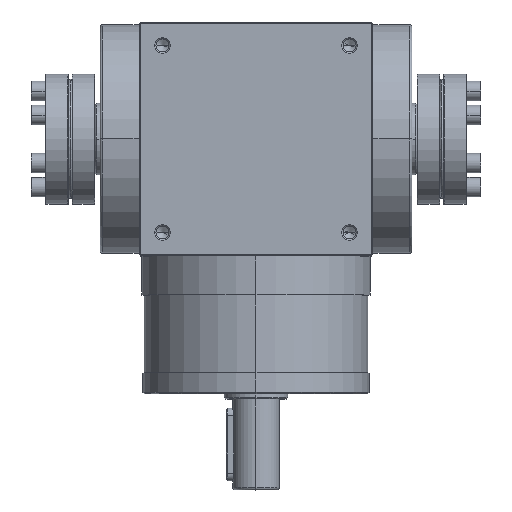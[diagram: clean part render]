
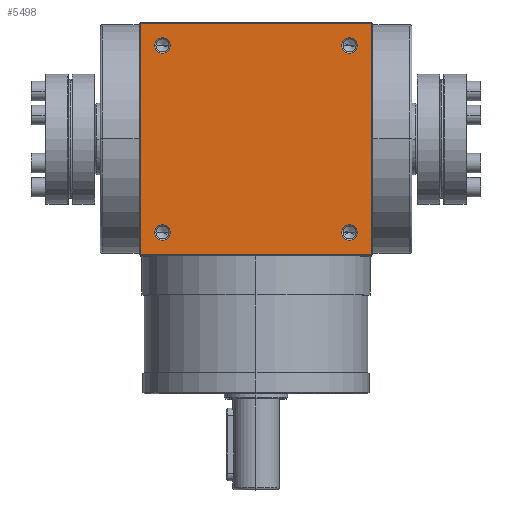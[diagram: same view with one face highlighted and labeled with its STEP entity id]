
A CAD part, top view. The second image highlights one B-rep face of the part: STEP entity #5498.
In plain terms, the highlighted planar face has unit normal (0, 0, 1).
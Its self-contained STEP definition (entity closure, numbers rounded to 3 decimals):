
#5 = CARTESIAN_POINT ( 'NONE',  ( 0., -44.5, 45. ) ) ;
#172 = EDGE_CURVE ( 'NONE', #19186, #20639, #1322, .T. ) ;
#410 = CARTESIAN_POINT ( 'NONE',  ( 36., 36., 45. ) ) ;
#411 = EDGE_CURVE ( 'NONE', #20338, #19186, #14234, .T. ) ;
#646 = DIRECTION ( 'NONE',  ( 0., 0., -1. ) ) ;
#714 = EDGE_CURVE ( 'NONE', #5680, #18333, #10078, .T. ) ;
#822 = AXIS2_PLACEMENT_3D ( 'NONE', #14475, #4615, #14544 ) ;
#993 = AXIS2_PLACEMENT_3D ( 'NONE', #410, #3765, #5420 ) ;
#1322 = LINE ( 'NONE', #4226, #15556 ) ;
#1798 = ORIENTED_EDGE ( 'NONE', *, *, #8211, .T. ) ;
#1892 = FACE_BOUND ( 'NONE', #12018, .T. ) ;
#2216 = CARTESIAN_POINT ( 'NONE',  ( 0., 44.5, 45. ) ) ;
#2563 = CARTESIAN_POINT ( 'NONE',  ( -33., -36., 45. ) ) ;
#2571 = ORIENTED_EDGE ( 'NONE', *, *, #172, .T. ) ;
#2953 = EDGE_CURVE ( 'NONE', #8719, #21416, #16514, .T. ) ;
#3151 = ORIENTED_EDGE ( 'NONE', *, *, #15196, .T. ) ;
#3448 = AXIS2_PLACEMENT_3D ( 'NONE', #14059, #4202, #19215 ) ;
#3765 = DIRECTION ( 'NONE',  ( 0., 0., -1. ) ) ;
#3800 = VERTEX_POINT ( 'NONE', #20534 ) ;
#3851 = CIRCLE ( 'NONE', #822, 3. ) ;
#4202 = DIRECTION ( 'NONE',  ( 0., 0., -1. ) ) ;
#4226 = CARTESIAN_POINT ( 'NONE',  ( -44.5, 0., 45. ) ) ;
#4615 = DIRECTION ( 'NONE',  ( 0., 0., -1. ) ) ;
#4729 = EDGE_LOOP ( 'NONE', ( #4821, #11162 ) ) ;
#4821 = ORIENTED_EDGE ( 'NONE', *, *, #19859, .T. ) ;
#4822 = PLANE ( 'NONE',  #12621 ) ;
#5012 = DIRECTION ( 'NONE',  ( -1., 0., 0. ) ) ;
#5169 = VECTOR ( 'NONE', #18755, 1000. ) ;
#5420 = DIRECTION ( 'NONE',  ( -1., 0., 0. ) ) ;
#5498 = ADVANCED_FACE ( 'NONE', ( #20016, #1892, #6034, #5779, #11177 ), #4822, .F. ) ;
#5585 = EDGE_LOOP ( 'NONE', ( #2571, #13144, #1798, #7390 ) ) ;
#5680 = VERTEX_POINT ( 'NONE', #12783 ) ;
#5779 = FACE_BOUND ( 'NONE', #4729, .T. ) ;
#6034 = FACE_BOUND ( 'NONE', #10641, .T. ) ;
#6475 = AXIS2_PLACEMENT_3D ( 'NONE', #19045, #17466, #11284 ) ;
#7009 = VECTOR ( 'NONE', #13749, 1000. ) ;
#7286 = CARTESIAN_POINT ( 'NONE',  ( 44.5, 0., 45. ) ) ;
#7379 = DIRECTION ( 'NONE',  ( -1., 0., 0. ) ) ;
#7390 = ORIENTED_EDGE ( 'NONE', *, *, #411, .T. ) ;
#8211 = EDGE_CURVE ( 'NONE', #8261, #20338, #10572, .T. ) ;
#8261 = VERTEX_POINT ( 'NONE', #8862 ) ;
#8448 = CIRCLE ( 'NONE', #15658, 3. ) ;
#8633 = AXIS2_PLACEMENT_3D ( 'NONE', #20925, #9313, #10956 ) ;
#8719 = VERTEX_POINT ( 'NONE', #2563 ) ;
#8779 = CARTESIAN_POINT ( 'NONE',  ( 44.5, 44.5, 45. ) ) ;
#8862 = CARTESIAN_POINT ( 'NONE',  ( 44.5, -44.5, 45. ) ) ;
#9077 = CARTESIAN_POINT ( 'NONE',  ( -44.5, 44.5, 45. ) ) ;
#9086 = ORIENTED_EDGE ( 'NONE', *, *, #12605, .T. ) ;
#9313 = DIRECTION ( 'NONE',  ( 0., 0., -1. ) ) ;
#9799 = EDGE_CURVE ( 'NONE', #18333, #5680, #8448, .T. ) ;
#10078 = CIRCLE ( 'NONE', #3448, 3. ) ;
#10572 = LINE ( 'NONE', #7286, #5169 ) ;
#10576 = VERTEX_POINT ( 'NONE', #19071 ) ;
#10641 = EDGE_LOOP ( 'NONE', ( #21105, #3151 ) ) ;
#10956 = DIRECTION ( 'NONE',  ( -1., 0., 0. ) ) ;
#11023 = CIRCLE ( 'NONE', #8633, 3. ) ;
#11162 = ORIENTED_EDGE ( 'NONE', *, *, #11730, .T. ) ;
#11177 = FACE_BOUND ( 'NONE', #15055, .T. ) ;
#11218 = EDGE_CURVE ( 'NONE', #20639, #8261, #11472, .T. ) ;
#11284 = DIRECTION ( 'NONE',  ( -1., 0., 0. ) ) ;
#11430 = DIRECTION ( 'NONE',  ( 1., 0., 0. ) ) ;
#11472 = LINE ( 'NONE', #5, #19263 ) ;
#11586 = ORIENTED_EDGE ( 'NONE', *, *, #9799, .T. ) ;
#11730 = EDGE_CURVE ( 'NONE', #13247, #3800, #13957, .T. ) ;
#11898 = ORIENTED_EDGE ( 'NONE', *, *, #714, .T. ) ;
#12018 = EDGE_LOOP ( 'NONE', ( #9086, #14524 ) ) ;
#12605 = EDGE_CURVE ( 'NONE', #16492, #10576, #20174, .T. ) ;
#12621 = AXIS2_PLACEMENT_3D ( 'NONE', #16445, #16230, #16519 ) ;
#12783 = CARTESIAN_POINT ( 'NONE',  ( -39., 36., 45. ) ) ;
#13044 = CIRCLE ( 'NONE', #6475, 3. ) ;
#13144 = ORIENTED_EDGE ( 'NONE', *, *, #11218, .T. ) ;
#13191 = CARTESIAN_POINT ( 'NONE',  ( -33., 36., 45. ) ) ;
#13247 = VERTEX_POINT ( 'NONE', #14173 ) ;
#13507 = CARTESIAN_POINT ( 'NONE',  ( 39., -36., 45. ) ) ;
#13622 = CARTESIAN_POINT ( 'NONE',  ( -36., 36., 45. ) ) ;
#13749 = DIRECTION ( 'NONE',  ( -1., 0., 0. ) ) ;
#13957 = CIRCLE ( 'NONE', #993, 3. ) ;
#14041 = AXIS2_PLACEMENT_3D ( 'NONE', #15700, #646, #14166 ) ;
#14059 = CARTESIAN_POINT ( 'NONE',  ( -36., 36., 45. ) ) ;
#14166 = DIRECTION ( 'NONE',  ( -1., 0., 0. ) ) ;
#14173 = CARTESIAN_POINT ( 'NONE',  ( 33., 36., 45. ) ) ;
#14234 = LINE ( 'NONE', #2216, #7009 ) ;
#14475 = CARTESIAN_POINT ( 'NONE',  ( 36., 36., 45. ) ) ;
#14524 = ORIENTED_EDGE ( 'NONE', *, *, #20832, .T. ) ;
#14544 = DIRECTION ( 'NONE',  ( -1., 0., 0. ) ) ;
#14749 = CARTESIAN_POINT ( 'NONE',  ( -39., -36., 45. ) ) ;
#14885 = DIRECTION ( 'NONE',  ( 0., 0., -1. ) ) ;
#15055 = EDGE_LOOP ( 'NONE', ( #11586, #11898 ) ) ;
#15196 = EDGE_CURVE ( 'NONE', #21416, #8719, #13044, .T. ) ;
#15556 = VECTOR ( 'NONE', #15771, 1000. ) ;
#15658 = AXIS2_PLACEMENT_3D ( 'NONE', #13622, #17048, #7379 ) ;
#15700 = CARTESIAN_POINT ( 'NONE',  ( 36., -36., 45. ) ) ;
#15771 = DIRECTION ( 'NONE',  ( 0., -1., 0. ) ) ;
#16230 = DIRECTION ( 'NONE',  ( 0., 0., -1. ) ) ;
#16445 = CARTESIAN_POINT ( 'NONE',  ( 0., 0., 45. ) ) ;
#16492 = VERTEX_POINT ( 'NONE', #13507 ) ;
#16514 = CIRCLE ( 'NONE', #17713, 3. ) ;
#16519 = DIRECTION ( 'NONE',  ( -1., 0., 0. ) ) ;
#17048 = DIRECTION ( 'NONE',  ( 0., 0., -1. ) ) ;
#17466 = DIRECTION ( 'NONE',  ( 0., 0., -1. ) ) ;
#17713 = AXIS2_PLACEMENT_3D ( 'NONE', #18301, #14885, #5012 ) ;
#18301 = CARTESIAN_POINT ( 'NONE',  ( -36., -36., 45. ) ) ;
#18333 = VERTEX_POINT ( 'NONE', #13191 ) ;
#18755 = DIRECTION ( 'NONE',  ( 0., 1., 0. ) ) ;
#19045 = CARTESIAN_POINT ( 'NONE',  ( -36., -36., 45. ) ) ;
#19071 = CARTESIAN_POINT ( 'NONE',  ( 33., -36., 45. ) ) ;
#19186 = VERTEX_POINT ( 'NONE', #9077 ) ;
#19215 = DIRECTION ( 'NONE',  ( -1., 0., 0. ) ) ;
#19263 = VECTOR ( 'NONE', #11430, 1000. ) ;
#19859 = EDGE_CURVE ( 'NONE', #3800, #13247, #3851, .T. ) ;
#20016 = FACE_OUTER_BOUND ( 'NONE', #5585, .T. ) ;
#20174 = CIRCLE ( 'NONE', #14041, 3. ) ;
#20338 = VERTEX_POINT ( 'NONE', #8779 ) ;
#20534 = CARTESIAN_POINT ( 'NONE',  ( 39., 36., 45. ) ) ;
#20639 = VERTEX_POINT ( 'NONE', #21163 ) ;
#20832 = EDGE_CURVE ( 'NONE', #10576, #16492, #11023, .T. ) ;
#20925 = CARTESIAN_POINT ( 'NONE',  ( 36., -36., 45. ) ) ;
#21105 = ORIENTED_EDGE ( 'NONE', *, *, #2953, .T. ) ;
#21163 = CARTESIAN_POINT ( 'NONE',  ( -44.5, -44.5, 45. ) ) ;
#21416 = VERTEX_POINT ( 'NONE', #14749 ) ;
